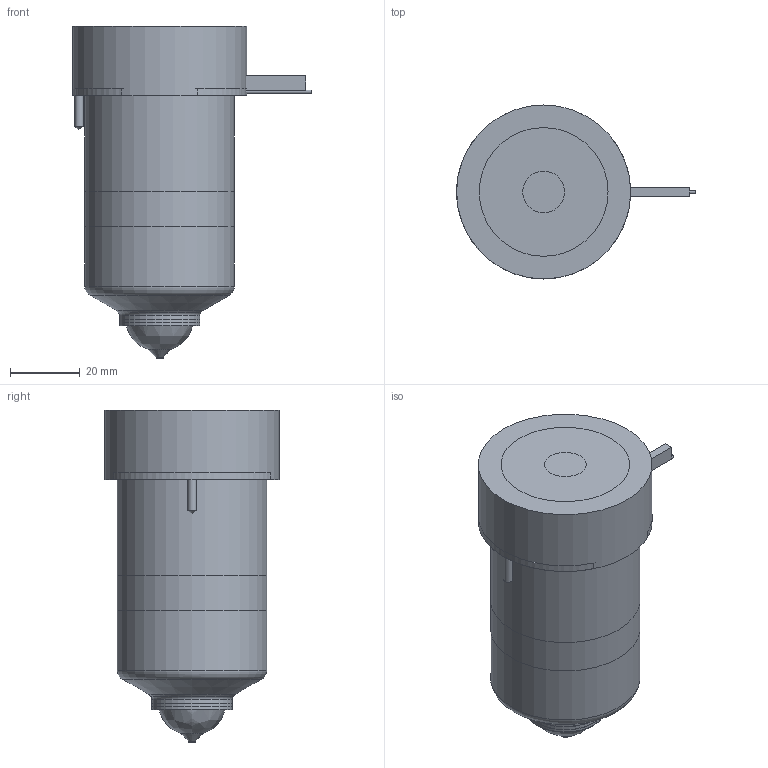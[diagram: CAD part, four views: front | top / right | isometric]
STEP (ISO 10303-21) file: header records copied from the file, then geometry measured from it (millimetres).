
FILE_DESCRIPTION(/* description */ (''),/* implementation_level */ '2;1');
FILE_NAME(/* name */ 'BXOT27075_200C_b',/* time_stamp */ '2007-01-18T08:46:49+13:00',/* author */ (''),/* organization */ (''),/* preprocessor_version */ 'ST-DEVELOPER v9',/* originating_system */ 'UGS - NX 4.0',/* authorisation */ '');
FILE_SCHEMA (('CONFIG_CONTROL_DESIGN'));
Length unit declared in the file: millimetre
Products named in the file (1): BXOT27075_200C_b
Bounding box: 68.6 x 50 x 95.4 mm (x, y, z)
Volume: 247222.3 mm3; surface area: 36331.2 mm2
Topology: 6 solids, 6 shells, 83 faces, 166 edges, 106 vertices
Faces by surface type: plane 34, cylinder 25, cone 12, torus 9, bspline 3
Full cylindrical faces by diameter (mm): 1 x3, 2 x1, 2.5 x2, 12 x1, 16.8 x1, 17 x1, 22.61 x1, 23.01 x2, 27.5 x1, 38.1 x1, 43 x2, 50 x1
Entity records: 2213 total; most frequent: CARTESIAN_POINT 562, DIRECTION 344, ORIENTED_EDGE 248, AXIS2_PLACEMENT_3D 153, EDGE_LOOP 128, EDGE_CURVE 124, VERTEX_POINT 99, ADVANCED_FACE 83
